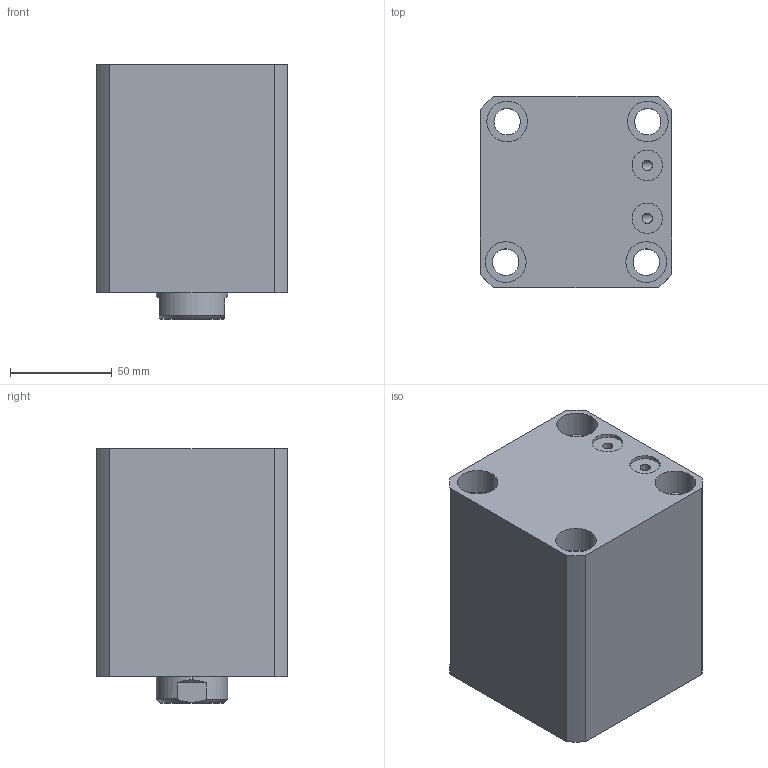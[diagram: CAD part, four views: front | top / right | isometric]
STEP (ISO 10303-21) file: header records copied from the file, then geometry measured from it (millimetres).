
FILE_DESCRIPTION (( 'STEP AP214' ), '1' );
FILE_NAME ('chtb-sdmb63x45n_asm.STEP', '2018-05-16T06:50:03', ( 'Windows' ), ( 'Microsoft' ), 'SwSTEP 2.0', 'SolidWorks 2015', '' );
FILE_SCHEMA (( 'AUTOMOTIVE_DESIGN' ));
Length unit declared in the file: millimetre
Products named in the file (4): CHTB-SDMB63X45NBT; CHTB63X45NHSG; CHTB-63QG; chtb-sdmb63x45n_asm
Assembly tree (3 placements, depth 2):
  chtb-sdmb63x45n_asm
    CHTB-63QG
    CHTB63X45NHSG
    CHTB-SDMB63X45NBT
Bounding box: 94 x 94 x 125 mm (x, y, z)
Volume: 805575.9 mm3; surface area: 140871.8 mm2
Topology: 3 solids, 3 shells, 164 faces, 468 edges, 318 vertices
Faces by surface type: cylinder 107, plane 30, bspline 12, cone 8, torus 7
Entity records: 17708 total; most frequent: CARTESIAN_POINT 13594, ORIENTED_EDGE 924, DIRECTION 707, EDGE_CURVE 462, VERTEX_POINT 318, AXIS2_PLACEMENT_3D 284, EDGE_LOOP 196, ADVANCED_FACE 164
